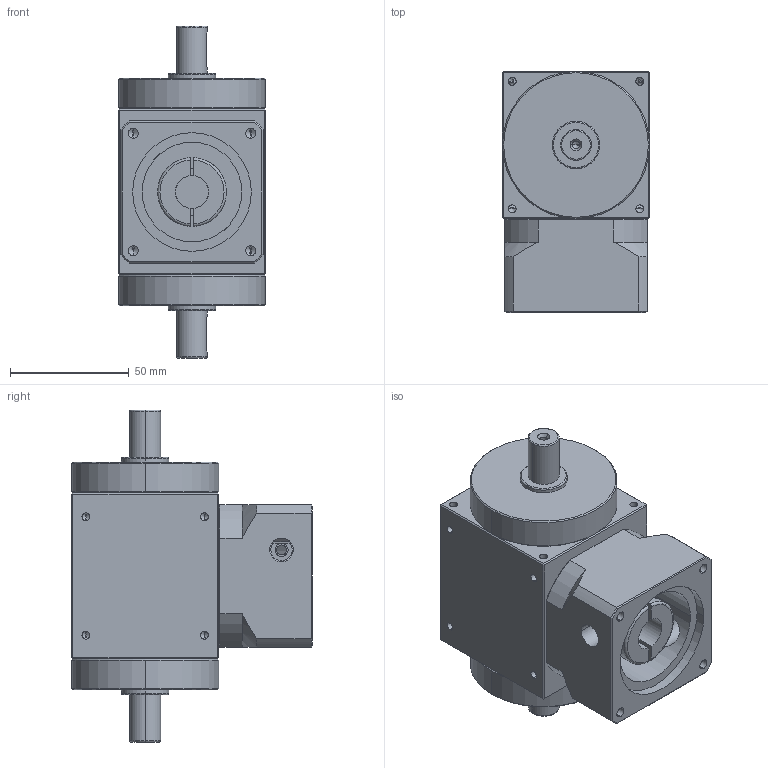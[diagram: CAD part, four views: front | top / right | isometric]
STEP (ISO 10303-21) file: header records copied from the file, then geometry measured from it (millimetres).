
FILE_DESCRIPTION (( 'STEP AP203' ), '1' );
FILE_NAME ('KHT60-S2-L0£r50PCD£r70M5.STEP', '2014-03-17T07:33:08', ( 'KELLY' ), ( '' ), 'SwSTEP 2.0', 'SolidWorks 2012', '' );
FILE_SCHEMA (( 'CONFIG_CONTROL_DESIGN' ));
Length unit declared in the file: millimetre
Products named in the file (1): KHT60-S2-L0｣r50PCD｣r70M5
Bounding box: 62 x 101.5 x 140 mm (x, y, z)
Volume: 445578.3 mm3; surface area: 66499.1 mm2
Topology: 5 solids, 5 shells, 281 faces, 702 edges, 390 vertices
Faces by surface type: cylinder 120, cone 76, plane 73, torus 12
Entity records: 8962 total; most frequent: CARTESIAN_POINT 2511, DIRECTION 1350, ORIENTED_EDGE 1300, EDGE_CURVE 650, AXIS2_PLACEMENT_3D 526, VERTEX_POINT 390, EDGE_LOOP 328, VECTOR 298
